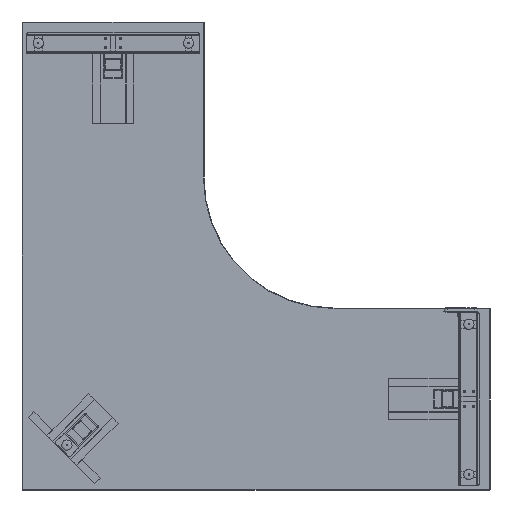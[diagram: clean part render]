
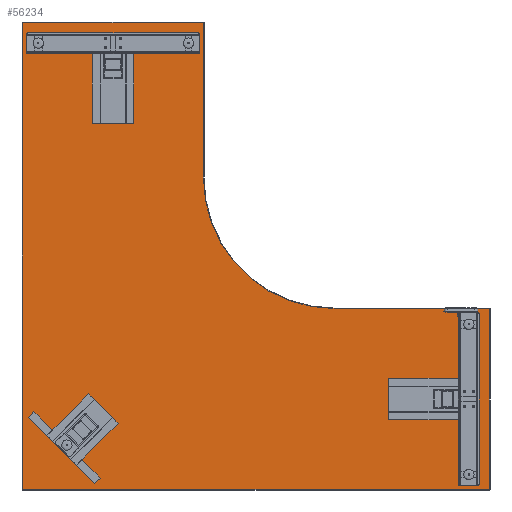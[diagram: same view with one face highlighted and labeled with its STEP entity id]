
A CAD part, front view. The second image highlights one B-rep face of the part: STEP entity #56234.
In plain terms, the highlighted planar face has unit normal (0, -1, 0).
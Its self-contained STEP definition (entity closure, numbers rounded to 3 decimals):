
#5312=CIRCLE('',#62124,502.);
#8484=FACE_OUTER_BOUND('',#11833,.T.);
#11833=EDGE_LOOP('',(#51434,#51435,#51436,#51437,#51438,#51439,#51440));
#16685=LINE('',#116588,#21558);
#16687=LINE('',#116597,#21560);
#16695=LINE('',#116630,#21568);
#16699=LINE('',#116643,#21572);
#16701=LINE('',#116646,#21574);
#16705=LINE('',#116652,#21578);
#21558=VECTOR('',#78432,10.);
#21560=VECTOR('',#78444,10.);
#21568=VECTOR('',#78484,10.);
#21572=VECTOR('',#78500,10.);
#21574=VECTOR('',#78504,10.);
#21578=VECTOR('',#78512,10.);
#26785=VERTEX_POINT('',#116549);
#26794=VERTEX_POINT('',#116576);
#26797=VERTEX_POINT('',#116586);
#26799=VERTEX_POINT('',#116592);
#26801=VERTEX_POINT('',#116601);
#26807=VERTEX_POINT('',#116621);
#26810=VERTEX_POINT('',#116634);
#34986=EDGE_CURVE('',#26797,#26794,#16685,.T.);
#34989=EDGE_CURVE('',#26799,#26797,#5312,.T.);
#34991=EDGE_CURVE('',#26785,#26799,#16687,.T.);
#35008=EDGE_CURVE('',#26794,#26807,#16695,.T.);
#35015=EDGE_CURVE('',#26807,#26810,#16699,.T.);
#35017=EDGE_CURVE('',#26810,#26801,#16701,.T.);
#35021=EDGE_CURVE('',#26801,#26785,#16705,.T.);
#51434=ORIENTED_EDGE('',*,*,#34986,.F.);
#51435=ORIENTED_EDGE('',*,*,#34989,.F.);
#51436=ORIENTED_EDGE('',*,*,#34991,.F.);
#51437=ORIENTED_EDGE('',*,*,#35021,.F.);
#51438=ORIENTED_EDGE('',*,*,#35017,.F.);
#51439=ORIENTED_EDGE('',*,*,#35015,.F.);
#51440=ORIENTED_EDGE('',*,*,#35008,.F.);
#53071=PLANE('',#62157);
#56234=ADVANCED_FACE('',(#8484),#53071,.F.);
#62124=AXIS2_PLACEMENT_3D('',#116594,#78438,#78439);
#62157=AXIS2_PLACEMENT_3D('',#116663,#78528,#78529);
#78432=DIRECTION('',(1.,0.,0.));
#78438=DIRECTION('center_axis',(0.,-1.,0.));
#78439=DIRECTION('ref_axis',(-0.707,0.,-0.707));
#78444=DIRECTION('',(0.,0.,-1.));
#78484=DIRECTION('',(0.,0.,-1.));
#78500=DIRECTION('',(-1.,0.,0.));
#78504=DIRECTION('',(0.,0.,1.));
#78512=DIRECTION('',(1.,0.,0.));
#78528=DIRECTION('center_axis',(0.,1.,0.));
#78529=DIRECTION('ref_axis',(1.,0.,0.));
#116549=CARTESIAN_POINT('',(698.,1025.,-2.));
#116576=CARTESIAN_POINT('',(1798.,1025.,-1102.));
#116586=CARTESIAN_POINT('',(1200.,1025.,-1102.));
#116588=CARTESIAN_POINT('',(1350.,1025.,-1102.));
#116592=CARTESIAN_POINT('',(698.,1025.,-600.));
#116594=CARTESIAN_POINT('Origin',(1200.,1025.,-600.));
#116597=CARTESIAN_POINT('',(698.,1025.,-750.));
#116601=CARTESIAN_POINT('',(2.,1025.,-2.));
#116621=CARTESIAN_POINT('',(1798.,1025.,-1798.));
#116630=CARTESIAN_POINT('',(1798.,1025.,-1350.));
#116634=CARTESIAN_POINT('',(2.,1025.,-1798.));
#116643=CARTESIAN_POINT('',(450.,1025.,-1798.));
#116646=CARTESIAN_POINT('',(2.,1025.,-450.));
#116652=CARTESIAN_POINT('',(800.,1025.,-2.));
#116663=CARTESIAN_POINT('Origin',(900.,1025.,-900.));
